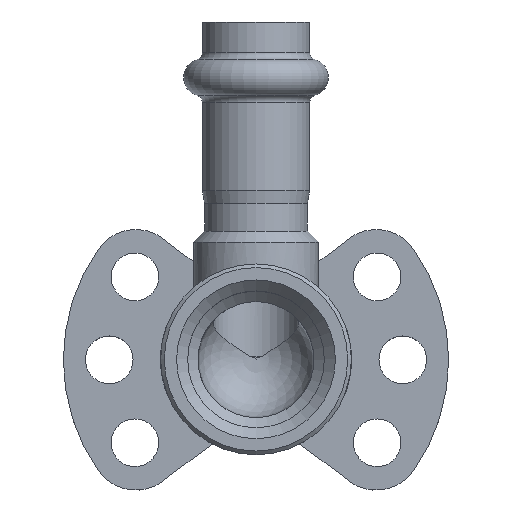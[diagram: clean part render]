
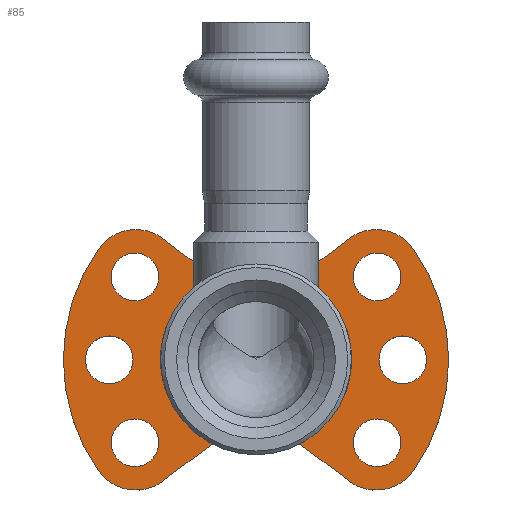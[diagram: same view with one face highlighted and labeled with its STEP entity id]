
A CAD part, top view. The second image highlights one B-rep face of the part: STEP entity #85.
In plain terms, the highlighted planar face has unit normal (0, 0, 1).
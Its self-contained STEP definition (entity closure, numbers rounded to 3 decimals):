
#85=ADVANCED_FACE('',(#794,#796,#798,#800,#802,#804,#806),#808,.F.);
#794=FACE_BOUND('',#795,.T.);
#795=EDGE_LOOP('',(#4421,#4422,#4423,#4424,#4425,#4426,#4427,#4428,#4429,#4430,#4431,
#4432,#4433,#4434,#4435,#4436,#4437,#4438));
#796=FACE_BOUND('',#797,.T.);
#797=EDGE_LOOP('',(#4439));
#798=FACE_BOUND('',#799,.T.);
#799=EDGE_LOOP('',(#4440));
#800=FACE_BOUND('',#801,.T.);
#801=EDGE_LOOP('',(#4441));
#802=FACE_BOUND('',#803,.T.);
#803=EDGE_LOOP('',(#4442));
#804=FACE_BOUND('',#805,.T.);
#805=EDGE_LOOP('',(#4443));
#806=FACE_BOUND('',#807,.T.);
#807=EDGE_LOOP('',(#4444));
#808=PLANE('',#809);
#809=AXIS2_PLACEMENT_3D('',#810,#811,#812);
#810=CARTESIAN_POINT('',(0.,0.,-12.));
#811=DIRECTION('',(0.,0.,-1.));
#812=DIRECTION('',(-1.,0.,0.));
#4421=ORIENTED_EDGE('',*,*,#7861,.F.);
#4422=ORIENTED_EDGE('',*,*,#7463,.T.);
#4423=ORIENTED_EDGE('',*,*,#7459,.F.);
#4424=ORIENTED_EDGE('',*,*,#7862,.F.);
#4425=ORIENTED_EDGE('',*,*,#7863,.F.);
#4426=ORIENTED_EDGE('',*,*,#7864,.F.);
#4427=ORIENTED_EDGE('',*,*,#7865,.F.);
#4428=ORIENTED_EDGE('',*,*,#7866,.F.);
#4429=ORIENTED_EDGE('',*,*,#7867,.T.);
#4430=ORIENTED_EDGE('',*,*,#7868,.T.);
#4431=ORIENTED_EDGE('',*,*,#7869,.T.);
#4432=ORIENTED_EDGE('',*,*,#7870,.T.);
#4433=ORIENTED_EDGE('',*,*,#7871,.T.);
#4434=ORIENTED_EDGE('',*,*,#7872,.T.);
#4435=ORIENTED_EDGE('',*,*,#7455,.T.);
#4436=ORIENTED_EDGE('',*,*,#7452,.T.);
#4437=ORIENTED_EDGE('',*,*,#7860,.F.);
#4438=ORIENTED_EDGE('',*,*,#7873,.T.);
#4439=ORIENTED_EDGE('',*,*,#7874,.T.);
#4440=ORIENTED_EDGE('',*,*,#7875,.T.);
#4441=ORIENTED_EDGE('',*,*,#7876,.T.);
#4442=ORIENTED_EDGE('',*,*,#7877,.F.);
#4443=ORIENTED_EDGE('',*,*,#7878,.F.);
#4444=ORIENTED_EDGE('',*,*,#7879,.F.);
#7452=EDGE_CURVE('',#8834,#8832,#8835,.T.);
#7455=EDGE_CURVE('',#8838,#8834,#8839,.T.);
#7459=EDGE_CURVE('',#8844,#8846,#8847,.T.);
#7463=EDGE_CURVE('',#8850,#8846,#8853,.F.);
#7860=EDGE_CURVE('',#9642,#8832,#9644,.F.);
#7861=EDGE_CURVE('',#8850,#9645,#9646,.F.);
#7862=EDGE_CURVE('',#9647,#8844,#9648,.T.);
#7863=EDGE_CURVE('',#9649,#9647,#9650,.T.);
#7864=EDGE_CURVE('',#9651,#9649,#9652,.T.);
#7865=EDGE_CURVE('',#9653,#9651,#9654,.T.);
#7866=EDGE_CURVE('',#9655,#9653,#9656,.T.);
#7867=EDGE_CURVE('',#9655,#9657,#9658,.T.);
#7868=EDGE_CURVE('',#9657,#9659,#9660,.T.);
#7869=EDGE_CURVE('',#9659,#9661,#9662,.T.);
#7870=EDGE_CURVE('',#9661,#9663,#9664,.T.);
#7871=EDGE_CURVE('',#9663,#9665,#9666,.T.);
#7872=EDGE_CURVE('',#9665,#8838,#9667,.T.);
#7873=EDGE_CURVE('',#9642,#9645,#9668,.F.);
#7874=EDGE_CURVE('',#9669,#9669,#9670,.T.);
#7875=EDGE_CURVE('',#9671,#9671,#9672,.T.);
#7876=EDGE_CURVE('',#9673,#9673,#9674,.T.);
#7877=EDGE_CURVE('',#9675,#9675,#9676,.T.);
#7878=EDGE_CURVE('',#9677,#9677,#9678,.T.);
#7879=EDGE_CURVE('',#9679,#9679,#9680,.T.);
#8832=VERTEX_POINT('',#11552);
#8834=VERTEX_POINT('',#11556);
#8835=LINE('',#11557,#11558);
#8838=VERTEX_POINT('',#11567);
#8839=LINE('',#11568,#11569);
#8844=VERTEX_POINT('',#11579);
#8846=VERTEX_POINT('',#11583);
#8847=LINE('',#11584,#11585);
#8850=VERTEX_POINT('',#11591);
#8853=LINE('',#11599,#11600);
#9642=VERTEX_POINT('',#15126);
#9644=CIRCLE('',#15130,1.);
#9645=VERTEX_POINT('',#15134);
#9646=CIRCLE('',#15135,1.);
#9647=VERTEX_POINT('',#15139);
#9648=LINE('',#15140,#15141);
#9649=VERTEX_POINT('',#15143);
#9650=CIRCLE('',#15144,6.25);
#9651=VERTEX_POINT('',#15148);
#9652=CIRCLE('',#15149,26.25);
#9653=VERTEX_POINT('',#15153);
#9654=CIRCLE('',#15154,6.25);
#9655=VERTEX_POINT('',#15158);
#9656=LINE('',#15159,#15160);
#9657=VERTEX_POINT('',#15162);
#9658=LINE('',#15163,#15164);
#9659=VERTEX_POINT('',#15166);
#9660=LINE('',#15167,#15168);
#9661=VERTEX_POINT('',#15170);
#9662=CIRCLE('',#15171,6.25);
#9663=VERTEX_POINT('',#15175);
#9664=CIRCLE('',#15176,26.25);
#9665=VERTEX_POINT('',#15180);
#9666=CIRCLE('',#15181,6.25);
#9667=LINE('',#15185,#15186);
#9668=LINE('',#15188,#15189);
#9669=VERTEX_POINT('',#15191);
#9670=CIRCLE('',#15192,3.25);
#9671=VERTEX_POINT('',#15196);
#9672=CIRCLE('',#15197,3.25);
#9673=VERTEX_POINT('',#15201);
#9674=CIRCLE('',#15202,3.25);
#9675=VERTEX_POINT('',#15206);
#9676=CIRCLE('',#15207,3.25);
#9677=VERTEX_POINT('',#15211);
#9678=CIRCLE('',#15212,3.25);
#9679=VERTEX_POINT('',#15216);
#9680=CIRCLE('',#15217,3.25);
#11552=CARTESIAN_POINT('',(4.,-4.25,-12.));
#11556=CARTESIAN_POINT('',(4.,10.75,-12.));
#11557=CARTESIAN_POINT('',(4.,10.75,-12.));
#11558=VECTOR('',#11559,1.);
#11559=DIRECTION('',(0.,-1.,0.));
#11567=CARTESIAN_POINT('',(5.,10.75,-12.));
#11568=CARTESIAN_POINT('',(5.,10.75,-12.));
#11569=VECTOR('',#11570,1.);
#11570=DIRECTION('',(-1.,0.,0.));
#11579=CARTESIAN_POINT('',(-5.,10.75,-12.));
#11583=CARTESIAN_POINT('',(-4.,10.75,-12.));
#11584=CARTESIAN_POINT('',(-5.,10.75,-12.));
#11585=VECTOR('',#11586,1.);
#11586=DIRECTION('',(1.,0.,0.));
#11591=CARTESIAN_POINT('',(-4.,-4.25,-12.));
#11599=CARTESIAN_POINT('',(-4.,10.75,-12.));
#11600=VECTOR('',#11601,1.);
#11601=DIRECTION('',(0.,-1.,0.));
#15126=CARTESIAN_POINT('',(3.,-5.25,-12.));
#15130=AXIS2_PLACEMENT_3D('',#15131,#15132,#15133);
#15131=CARTESIAN_POINT('',(3.,-4.25,-12.));
#15132=DIRECTION('',(0.,0.,-1.));
#15133=DIRECTION('',(1.,0.,0.));
#15134=CARTESIAN_POINT('',(-3.,-5.25,-12.));
#15135=AXIS2_PLACEMENT_3D('',#15136,#15137,#15138);
#15136=CARTESIAN_POINT('',(-3.,-4.25,-12.));
#15137=DIRECTION('',(0.,0.,-1.));
#15138=DIRECTION('',(0.,-1.,0.));
#15139=CARTESIAN_POINT('',(-12.019,15.993,-12.));
#15140=CARTESIAN_POINT('',(-12.019,15.993,-12.));
#15141=VECTOR('',#15142,1.);
#15142=DIRECTION('',(0.801,-0.598,0.));
#15143=CARTESIAN_POINT('',(-21.477,15.094,-12.));
#15144=AXIS2_PLACEMENT_3D('',#15145,#15146,#15147);
#15145=CARTESIAN_POINT('',(-16.363,11.5,-12.));
#15146=DIRECTION('',(0.,0.,-1.));
#15147=DIRECTION('',(-0.818,0.575,0.));
#15148=CARTESIAN_POINT('',(-21.477,-15.094,-12.));
#15149=AXIS2_PLACEMENT_3D('',#15150,#15151,#15152);
#15150=CARTESIAN_POINT('',(0.,0.,-12.));
#15151=DIRECTION('',(0.,0.,-1.));
#15152=DIRECTION('',(-0.818,-0.575,0.));
#15153=CARTESIAN_POINT('',(-12.019,-15.993,-12.));
#15154=AXIS2_PLACEMENT_3D('',#15155,#15156,#15157);
#15155=CARTESIAN_POINT('',(-16.363,-11.5,-12.));
#15156=DIRECTION('',(0.,0.,-1.));
#15157=DIRECTION('',(0.695,-0.719,0.));
#15158=CARTESIAN_POINT('',(-5.,-10.75,-12.));
#15159=CARTESIAN_POINT('',(-5.,-10.75,-12.));
#15160=VECTOR('',#15161,1.);
#15161=DIRECTION('',(-0.801,-0.598,0.));
#15162=CARTESIAN_POINT('',(5.,-10.75,-12.));
#15163=CARTESIAN_POINT('',(-5.,-10.75,-12.));
#15164=VECTOR('',#15165,1.);
#15165=DIRECTION('',(1.,0.,0.));
#15166=CARTESIAN_POINT('',(12.019,-15.993,-12.));
#15167=CARTESIAN_POINT('',(5.,-10.75,-12.));
#15168=VECTOR('',#15169,1.);
#15169=DIRECTION('',(0.801,-0.598,0.));
#15170=CARTESIAN_POINT('',(21.477,-15.094,-12.));
#15171=AXIS2_PLACEMENT_3D('',#15172,#15173,#15174);
#15172=CARTESIAN_POINT('',(16.363,-11.5,-12.));
#15173=DIRECTION('',(0.,0.,1.));
#15174=DIRECTION('',(-0.695,-0.719,0.));
#15175=CARTESIAN_POINT('',(21.477,15.094,-12.));
#15176=AXIS2_PLACEMENT_3D('',#15177,#15178,#15179);
#15177=CARTESIAN_POINT('',(0.,0.,-12.));
#15178=DIRECTION('',(0.,0.,1.));
#15179=DIRECTION('',(0.818,-0.575,0.));
#15180=CARTESIAN_POINT('',(12.019,15.993,-12.));
#15181=AXIS2_PLACEMENT_3D('',#15182,#15183,#15184);
#15182=CARTESIAN_POINT('',(16.363,11.5,-12.));
#15183=DIRECTION('',(0.,0.,1.));
#15184=DIRECTION('',(0.818,0.575,0.));
#15185=CARTESIAN_POINT('',(12.019,15.993,-12.));
#15186=VECTOR('',#15187,1.);
#15187=DIRECTION('',(-0.801,-0.598,0.));
#15188=CARTESIAN_POINT('',(-3.,-5.25,-12.));
#15189=VECTOR('',#15190,1.);
#15190=DIRECTION('',(1.,0.,0.));
#15191=CARTESIAN_POINT('',(-19.75,-11.303,-12.));
#15192=AXIS2_PLACEMENT_3D('',#15193,#15194,#15195);
#15193=CARTESIAN_POINT('',(-16.5,-11.303,-12.));
#15194=DIRECTION('',(0.,0.,-1.));
#15195=DIRECTION('',(-1.,0.,0.));
#15196=CARTESIAN_POINT('',(-19.75,11.303,-12.));
#15197=AXIS2_PLACEMENT_3D('',#15198,#15199,#15200);
#15198=CARTESIAN_POINT('',(-16.5,11.303,-12.));
#15199=DIRECTION('',(0.,0.,-1.));
#15200=DIRECTION('',(-1.,0.,0.));
#15201=CARTESIAN_POINT('',(-23.25,0.,-12.));
#15202=AXIS2_PLACEMENT_3D('',#15203,#15204,#15205);
#15203=CARTESIAN_POINT('',(-20.,0.,-12.));
#15204=DIRECTION('',(0.,0.,-1.));
#15205=DIRECTION('',(-1.,0.,0.));
#15206=CARTESIAN_POINT('',(23.25,0.,-12.));
#15207=AXIS2_PLACEMENT_3D('',#15208,#15209,#15210);
#15208=CARTESIAN_POINT('',(20.,0.,-12.));
#15209=DIRECTION('',(0.,0.,1.));
#15210=DIRECTION('',(1.,0.,0.));
#15211=CARTESIAN_POINT('',(19.75,11.303,-12.));
#15212=AXIS2_PLACEMENT_3D('',#15213,#15214,#15215);
#15213=CARTESIAN_POINT('',(16.5,11.303,-12.));
#15214=DIRECTION('',(0.,0.,1.));
#15215=DIRECTION('',(1.,0.,0.));
#15216=CARTESIAN_POINT('',(19.75,-11.303,-12.));
#15217=AXIS2_PLACEMENT_3D('',#15218,#15219,#15220);
#15218=CARTESIAN_POINT('',(16.5,-11.303,-12.));
#15219=DIRECTION('',(0.,0.,1.));
#15220=DIRECTION('',(1.,0.,0.));
